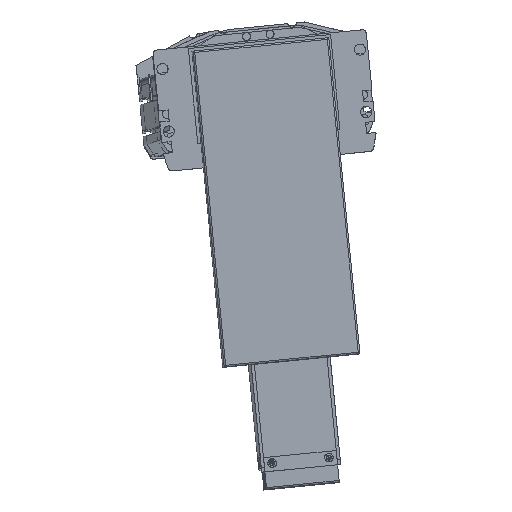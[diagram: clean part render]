
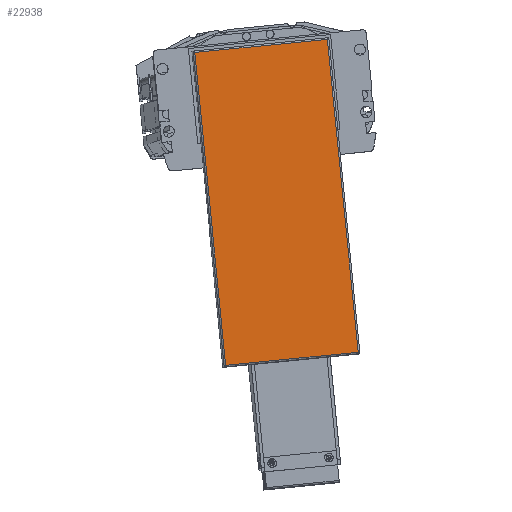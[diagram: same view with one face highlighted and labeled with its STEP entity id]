
A CAD part, top view. The second image highlights one B-rep face of the part: STEP entity #22938.
In plain terms, the highlighted planar face has unit normal (0.017, 0.003, 1) as drawn and (0, 0, 1) by its records, which use the part's own axes.
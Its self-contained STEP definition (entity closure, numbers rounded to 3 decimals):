
#22882 = ORIENTED_EDGE ( 'NONE', *, *, #63332, .T. ) ;
#22890 = EDGE_CURVE ( 'NONE', #63351, #22892, #32303, .T. ) ;
#22892 = VERTEX_POINT ( 'NONE', #32034 ) ;
#22903 = VERTEX_POINT ( 'NONE', #32567 ) ;
#22921 = EDGE_LOOP ( 'NONE', ( #22929, #22937, #22882, #22957 ) ) ;
#22922 = EDGE_CURVE ( 'NONE', #22934, #22903, #32597, .T. ) ;
#22929 = ORIENTED_EDGE ( 'NONE', *, *, #22930, .T. ) ;
#22930 = EDGE_CURVE ( 'NONE', #22892, #22934, #32673, .T. ) ;
#22934 = VERTEX_POINT ( 'NONE', #32880 ) ;
#22937 = ORIENTED_EDGE ( 'NONE', *, *, #22922, .T. ) ;
#22938 = ADVANCED_FACE ( 'NONE', ( #32791 ), #32808, .T. ) ;
#22957 = ORIENTED_EDGE ( 'NONE', *, *, #22890, .T. ) ;
#32034 = CARTESIAN_POINT ( 'NONE',  ( -41.95, -125.25, 44. ) ) ;
#32296 = DIRECTION ( 'NONE',  ( 0., -1., 0. ) ) ;
#32298 = VECTOR ( 'NONE', #32296, 1000. ) ;
#32300 = CARTESIAN_POINT ( 'NONE',  ( -41.95, -126.25, 44. ) ) ;
#32303 = LINE ( 'NONE', #32300, #32298 ) ;
#32567 = CARTESIAN_POINT ( 'NONE',  ( 41.95, 72.75, 44. ) ) ;
#32597 = LINE ( 'NONE', #32886, #32884 ) ;
#32670 = CARTESIAN_POINT ( 'NONE',  ( -42.95, -125.25, 44. ) ) ;
#32673 = LINE ( 'NONE', #32670, #32852 ) ;
#32790 = CARTESIAN_POINT ( 'NONE',  ( -42.95, -126.25, 44. ) ) ;
#32791 = FACE_OUTER_BOUND ( 'NONE', #22921, .T. ) ;
#32808 = PLANE ( 'NONE',  #32831 ) ;
#32831 = AXIS2_PLACEMENT_3D ( 'NONE', #32790, #32984, #32983 ) ;
#32851 = DIRECTION ( 'NONE',  ( 1., 0., 0. ) ) ;
#32852 = VECTOR ( 'NONE', #32851, 1000. ) ;
#32880 = CARTESIAN_POINT ( 'NONE',  ( 41.95, -125.25, 44. ) ) ;
#32882 = DIRECTION ( 'NONE',  ( 0., 1., 0. ) ) ;
#32884 = VECTOR ( 'NONE', #32882, 1000. ) ;
#32886 = CARTESIAN_POINT ( 'NONE',  ( 41.95, -126.25, 44. ) ) ;
#32983 = DIRECTION ( 'NONE',  ( 1., 0., 0. ) ) ;
#32984 = DIRECTION ( 'NONE',  ( 0., 0., 1. ) ) ;
#57543 = VECTOR ( 'NONE', #57594, 1000. ) ;
#57544 = CARTESIAN_POINT ( 'NONE',  ( -42.95, 72.75, 44. ) ) ;
#57545 = LINE ( 'NONE', #57544, #57543 ) ;
#57594 = DIRECTION ( 'NONE',  ( -1., 0., 0. ) ) ;
#57907 = CARTESIAN_POINT ( 'NONE',  ( -41.95, 72.75, 44. ) ) ;
#63332 = EDGE_CURVE ( 'NONE', #22903, #63351, #57545, .T. ) ;
#63351 = VERTEX_POINT ( 'NONE', #57907 ) ;
